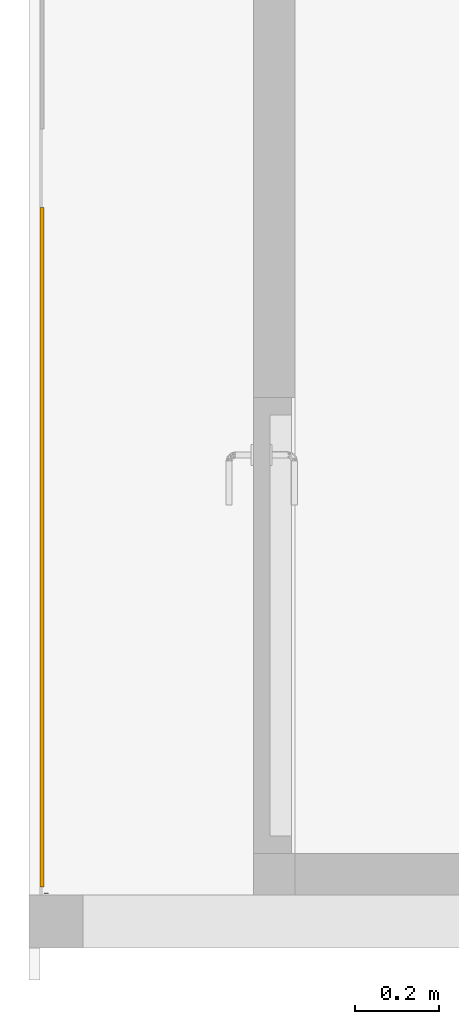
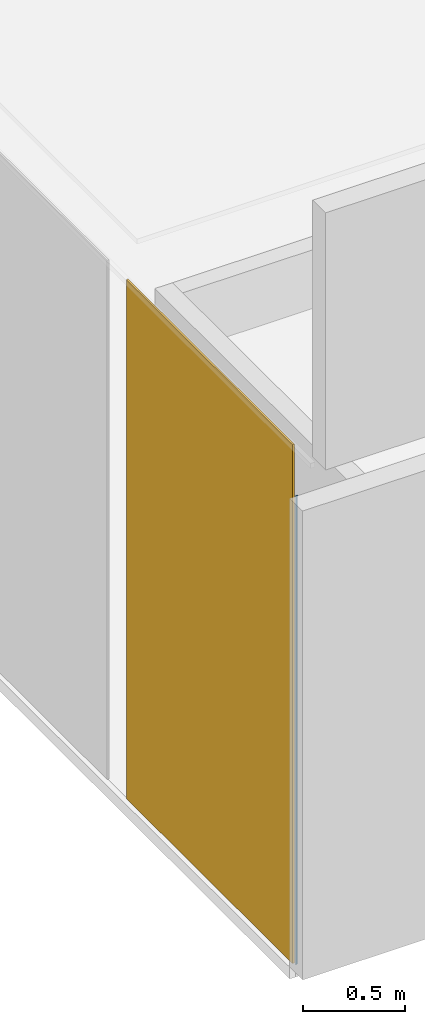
# One storey, part 1 of 7: 1 door, 1 wall, 1 opening.
"""IFC2X3 building model written with IfcOpenShell, lengths in millimetres."""

from ifc_helpers import new_model, entity, si_unit, converted_unit, derived_unit, direction, frame, frame_2d, origin, origin_with_axes, place, context, subcontext, project, spatial, rectangle, extrude, source, transform, mapped, material, layer, layer_set, layer_usage, type_object, element, fill, save


model = new_model("IFC2X3")

# Units and contexts
model_context = context("Model", 3, precision=0.01, world=frame((0.0, 4.29681676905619e-09, 0.0)), true_north=direction((4.01073788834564e-13, 1.0)))
plan_context = context("Plan", 3, precision=0.01, world=frame((0.0, 4.29681676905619e-09, 0.0)), true_north=direction((4.01073788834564e-13, 1.0)))
body_context = subcontext(model_context, "Body", "Model", "MODEL_VIEW")
ifc_project = project(units=[converted_unit("PLANEANGLEUNIT", "DEGREE", entity("IfcPositiveLengthMeasure", 0.0174532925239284), si_unit("PLANEANGLEUNIT", "RADIAN"), dimensions=[0, 0, 0, 0, 0, 0, 0]), si_unit("AREAUNIT", "SQUARE_METRE"), si_unit("LENGTHUNIT", "METRE", prefix="MILLI"), si_unit("MASSUNIT", "GRAM", prefix="KILO"), si_unit("POWERUNIT", "WATT"), si_unit("PRESSUREUNIT", "PASCAL", prefix="KILO"), si_unit("FORCEUNIT", "NEWTON", prefix="KILO"), si_unit("ELECTRICVOLTAGEUNIT", "VOLT"), si_unit("ELECTRICCURRENTUNIT", "AMPERE"), si_unit("THERMODYNAMICTEMPERATUREUNIT", "DEGREE_CELSIUS"), si_unit("TIMEUNIT", "SECOND"), si_unit("VOLUMEUNIT", "CUBIC_METRE"), derived_unit("LINEARVELOCITYUNIT", [(si_unit("LENGTHUNIT", "METRE"), 1), (si_unit("TIMEUNIT", "SECOND"), -1)]), derived_unit("VOLUMETRICFLOWRATEUNIT", [(si_unit("VOLUMEUNIT", "CUBIC_METRE"), 1), (si_unit("TIMEUNIT", "SECOND"), -1)]), derived_unit("THERMALTRANSMITTANCEUNIT", [(si_unit("POWERUNIT", "WATT"), 1), (si_unit("THERMODYNAMICTEMPERATUREUNIT", "KELVIN"), -1), (si_unit("AREAUNIT", "SQUARE_METRE"), -1)]), derived_unit("SOUNDPRESSUREUNIT", [(si_unit("PRESSUREUNIT", "PASCAL"), 1)])], contexts=[model_context, plan_context])

# Site, building, storey
site_placement = place(None, origin_with_axes())
site = spatial("IfcSite", under=ifc_project, at=site_placement, Name="ENGM", CompositionType="ELEMENT")
building_placement = place(site_placement, origin_with_axes())
building = spatial("IfcBuilding", under=site, at=building_placement, Name="TS", CompositionType="ELEMENT")
storey_placement = place(building_placement, frame((0.0, 0.0, 210900.0), z_axis=(0.0, 0.0, 1.0), x_axis=(1.0, 0.0, 0.0)))
storey = spatial("IfcBuildingStorey", under=building, at=storey_placement, Name="Nivå F", CompositionType="ELEMENT", Elevation=210900.0)

# Wall, opening, door
ifc_material_1 = material(Name="T2 Stål Galvanisert")
ifc_layer = layer(ifc_material_1, 10.0)
ifc_layer_set = layer_set([ifc_layer], Name="Basic Wall:B200 - Metallplate 10mm")
ifc_layer_usage = layer_usage(ifc_layer_set, "AXIS2", "NEGATIVE", 5.0)
wall_type = type_object("IfcWallType", Name="Basic Wall:B200 - Metallplate 10mm", PredefinedType="STANDARD", material=ifc_layer_set)
wall_placement = place(storey_placement, frame((714479.987500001, 434706.26473214, 0.0), z_axis=(0.0, 0.0, 1.0), x_axis=(0.0, 1.0, 0.0)))
wall = element("IfcWallStandardCase", 1, at=wall_placement, inside=storey, type_object=wall_type, material=ifc_layer_usage, Name="Basic Wall:B200 - Metallplate 10mm", ObjectType="Basic Wall:B200 - Metallplate 10mm", context=body_context, shape_type="SweptSolid", body=[
    extrude(rectangle(XDim=10.0000000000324, YDim=0.179018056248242, at=frame_2d((-6.93032298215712e-11, 0.0), x_axis=(1.0, 0.0))), frame((0.089509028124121, 0.0, 0.0), z_axis=(0.0, 0.0, 1.0), x_axis=(0.0, 1.0, 0.0)), (0.0, 0.0, 1.0), 2799.99999999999),
])
opening_placement = place(wall_placement, frame((0.179018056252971, -5.0, 0.0), z_axis=(0.0, 0.0, 1.0), x_axis=(1.0, 0.0, 0.0)))
opening = element("IfcOpeningElement", 2, at=opening_placement, cuts=wall, Name="A200 - Rulleport:A233 - RY_AAO - 1655 x 3100 mm:1", ObjectType="Opening", context=body_context, shape_type="SweptSolid", body=[
    extrude(rectangle(XDim=3100.0, YDim=1655.0, at=frame_2d((1549.99999999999, 827.5), x_axis=(1.0, 0.0))), frame((0.0, 0.0, 0.0), z_axis=(0.0, 1.0, 0.0), x_axis=(0.0, 0.0, 1.0)), (0.0, 0.0, 1.0), 9.99999999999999),
])
ifc_material_2 = material(Name="NO_Aluminium")
door_style = type_object("IfcDoorStyle", Name="A200 - Rulleport:A233 - RY_AAO - 1655 x 3100 mm", ConstructionType="NOTDEFINED", OperationType="NOTDEFINED", ParameterTakesPrecedence=False, Sizeable=False, material=ifc_material_2)
shared_shape = source(origin(), body_context, "Body", "SweptSolid", [
    extrude(rectangle(XDim=10.0, YDim=1625.0, at=frame_2d((-8.88178419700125e-16, 0.0), x_axis=(1.0, 0.0))), frame((827.500000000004, -5.0, 0.0), z_axis=(0.0, 0.0, 1.0), x_axis=(0.0, -1.0, 0.0)), (0.0, 0.0, 1.0), 3100.0),
])
door_placement = place(opening_placement, frame((1655.0, 10.0, 0.0), z_axis=(0.0, 0.0, 1.0), x_axis=(-1.0, 0.0, 0.0)))
door = element("IfcDoor", 3, at=door_placement, inside=storey, type_object=door_style, material=ifc_material_2, Name="A200 - Rulleport:A233 - RY_AAO - 1655 x 3100 mm", ObjectType="A200 - Rulleport:A233 - RY_AAO - 1655 x 3100 mm", OverallHeight=3099.99999999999, OverallWidth=1655.00000000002, context=body_context, shape_type="MappedRepresentation", body=[
    mapped(shared_shape, transform((0.0, 0.0, 0.0), scale=1.0)),
])
fill(opening, door)

save(model, "model.ifc")
